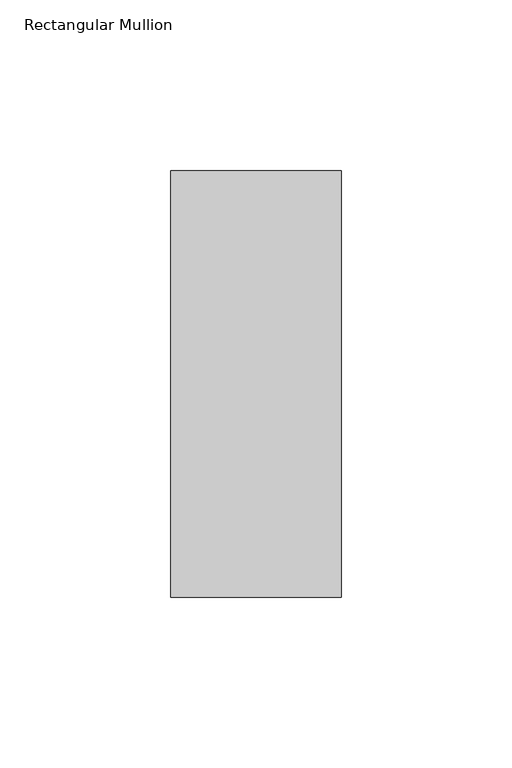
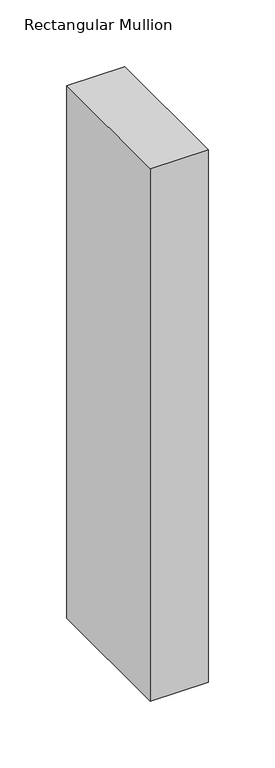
"""IFC4 building model written with IfcOpenShell, lengths in millimetres: member geometry, Rectangular Mullion : DucoSun Cubic Design profile 50x125 for louvre 300."""

from ifc_helpers import new_model, si_unit, frame, origin, place, context, project, spatial, polyline, outline, extrude, source, transform, mapped, element, save


def rectangular_mullion_e13a8b86(model_context):
    return source(origin(), model_context, "Body", "SweptSolid", [
        extrude(outline(polyline([(0.0, -87.5), (0.0, -212.5), (-50.0, -212.5), (-50.0, -87.5), (0.0, -87.5)])), frame((0.0, 0.0, -486.4), z_axis=(0.0, 0.0, 1.0), x_axis=(1.0, 0.0, 0.0)), (0.0, 0.0, 1.0), 486.4),
    ])


if __name__ == "__main__":
    model = new_model("IFC4")
    model_context = context("Model", 3, world=origin())
    ifc_project = project(units=[si_unit("LENGTHUNIT", "METRE", prefix="MILLI")], contexts=[model_context])
    site = spatial("IfcSite", under=ifc_project)
    building = spatial("IfcBuilding", under=site)
    placement = place(None, origin())
    rectangular_mullion_shape = rectangular_mullion_e13a8b86(model_context)
    element("IfcMember", 1, ObjectType="Rectangular Mullion : DucoSun Cubic Design profile 50x125 for louvre 300", at=placement, inside=building, context=model_context, shape_type="MappedRepresentation", body=[
        mapped(rectangular_mullion_shape, transform((0.0, 0.0, 0.0), x_axis=(1.0, 0.0, 0.0), y_axis=(0.0, 1.0, 0.0), z_axis=(0.0, 0.0, 1.0))),
    ])
    save(model, "model.ifc")
